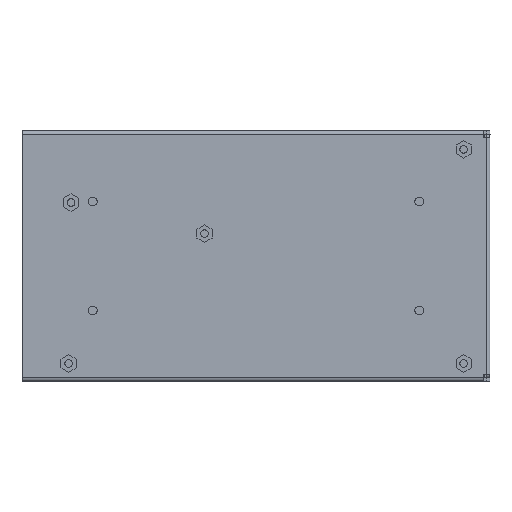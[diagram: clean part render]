
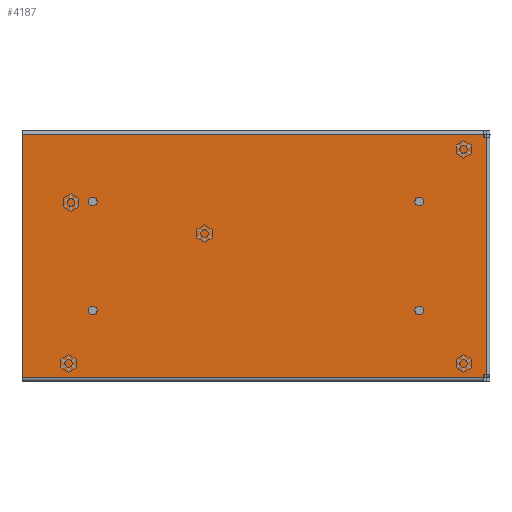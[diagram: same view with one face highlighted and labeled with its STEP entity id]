
A CAD part, front view. The second image highlights one B-rep face of the part: STEP entity #4187.
In plain terms, the highlighted planar face has unit normal (0, -1, 0).
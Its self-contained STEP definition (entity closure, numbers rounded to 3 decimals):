
#36=DIRECTION('',(-1.,0.,0.));
#37=VECTOR('',#36,1.5);
#38=CARTESIAN_POINT('',(-1.5,0.,-54.5));
#39=LINE('',#38,#37);
#40=DIRECTION('',(0.,0.,1.));
#41=VECTOR('',#40,112.);
#42=CARTESIAN_POINT('',(-215.,0.,-56.));
#43=LINE('',#42,#41);
#44=DIRECTION('',(0.,0.,-1.));
#45=VECTOR('',#44,1.5);
#46=CARTESIAN_POINT('',(-3.,0.,56.));
#47=LINE('',#46,#45);
#48=CARTESIAN_POINT('',(-182.5,0.,-25.));
#49=DIRECTION('',(0.,-1.,0.));
#50=DIRECTION('',(-1.,0.,0.));
#51=AXIS2_PLACEMENT_3D('',#48,#49,#50);
#53=CARTESIAN_POINT('',(-182.5,0.,-25.));
#54=DIRECTION('',(0.,-1.,0.));
#55=DIRECTION('',(1.,0.,0.));
#56=AXIS2_PLACEMENT_3D('',#53,#54,#55);
#58=CARTESIAN_POINT('',(-32.5,0.,-25.));
#59=DIRECTION('',(0.,-1.,0.));
#60=DIRECTION('',(-1.,0.,0.));
#61=AXIS2_PLACEMENT_3D('',#58,#59,#60);
#63=CARTESIAN_POINT('',(-32.5,0.,-25.));
#64=DIRECTION('',(0.,-1.,0.));
#65=DIRECTION('',(1.,0.,0.));
#66=AXIS2_PLACEMENT_3D('',#63,#64,#65);
#68=CARTESIAN_POINT('',(-182.5,0.,25.));
#69=DIRECTION('',(0.,-1.,0.));
#70=DIRECTION('',(-1.,0.,0.));
#71=AXIS2_PLACEMENT_3D('',#68,#69,#70);
#73=CARTESIAN_POINT('',(-182.5,0.,25.));
#74=DIRECTION('',(0.,-1.,0.));
#75=DIRECTION('',(1.,0.,0.));
#76=AXIS2_PLACEMENT_3D('',#73,#74,#75);
#78=CARTESIAN_POINT('',(-32.5,0.,25.));
#79=DIRECTION('',(0.,-1.,0.));
#80=DIRECTION('',(-1.,0.,0.));
#81=AXIS2_PLACEMENT_3D('',#78,#79,#80);
#83=CARTESIAN_POINT('',(-32.5,0.,25.));
#84=DIRECTION('',(0.,-1.,0.));
#85=DIRECTION('',(1.,0.,0.));
#86=AXIS2_PLACEMENT_3D('',#83,#84,#85);
#88=DIRECTION('',(-1.,0.,0.));
#89=VECTOR('',#88,1.5);
#90=CARTESIAN_POINT('',(-1.5,0.,54.5));
#91=LINE('',#90,#89);
#113=DIRECTION('',(-1.,0.,0.));
#114=VECTOR('',#113,212.);
#115=CARTESIAN_POINT('',(-3.,0.,56.));
#116=LINE('',#115,#114);
#529=DIRECTION('',(1.,0.,0.));
#530=VECTOR('',#529,212.);
#531=CARTESIAN_POINT('',(-215.,0.,-56.));
#532=LINE('',#531,#530);
#1520=DIRECTION('',(0.,0.,1.));
#1521=VECTOR('',#1520,1.5);
#1522=CARTESIAN_POINT('',(-3.,0.,-56.));
#1523=LINE('',#1522,#1521);
#1549=DIRECTION('',(0.,0.,1.));
#1550=VECTOR('',#1549,109.);
#1551=CARTESIAN_POINT('',(-1.5,0.,-54.5));
#1552=LINE('',#1551,#1550);
#3288=CARTESIAN_POINT('',(-1.5,0.,54.5));
#3289=CARTESIAN_POINT('',(-3.,0.,54.5));
#3290=VERTEX_POINT('',#3288);
#3291=VERTEX_POINT('',#3289);
#3292=CARTESIAN_POINT('',(-1.5,0.,-54.5));
#3293=VERTEX_POINT('',#3292);
#3294=CARTESIAN_POINT('',(-3.,0.,-54.5));
#3295=VERTEX_POINT('',#3294);
#3296=CARTESIAN_POINT('',(-3.,0.,-56.));
#3297=VERTEX_POINT('',#3296);
#3298=CARTESIAN_POINT('',(-215.,0.,-56.));
#3299=VERTEX_POINT('',#3298);
#3300=CARTESIAN_POINT('',(-215.,0.,56.));
#3301=VERTEX_POINT('',#3300);
#3302=CARTESIAN_POINT('',(-3.,0.,56.));
#3303=VERTEX_POINT('',#3302);
#3304=CARTESIAN_POINT('',(-184.5,0.,-25.));
#3305=CARTESIAN_POINT('',(-180.5,0.,-25.));
#3306=VERTEX_POINT('',#3304);
#3307=VERTEX_POINT('',#3305);
#3308=CARTESIAN_POINT('',(-34.5,0.,-25.));
#3309=CARTESIAN_POINT('',(-30.5,0.,-25.));
#3310=VERTEX_POINT('',#3308);
#3311=VERTEX_POINT('',#3309);
#3312=CARTESIAN_POINT('',(-184.5,0.,25.));
#3313=CARTESIAN_POINT('',(-180.5,0.,25.));
#3314=VERTEX_POINT('',#3312);
#3315=VERTEX_POINT('',#3313);
#3316=CARTESIAN_POINT('',(-34.5,0.,25.));
#3317=CARTESIAN_POINT('',(-30.5,0.,25.));
#3318=VERTEX_POINT('',#3316);
#3319=VERTEX_POINT('',#3317);
#4140=CARTESIAN_POINT('',(0.,0.,0.));
#4141=DIRECTION('',(0.,1.,0.));
#4142=DIRECTION('',(1.,0.,0.));
#4143=AXIS2_PLACEMENT_3D('',#4140,#4141,#4142);
#4144=PLANE('',#4143);
#4146=ORIENTED_EDGE('',*,*,#4145,.F.);
#4148=ORIENTED_EDGE('',*,*,#4147,.F.);
#4150=ORIENTED_EDGE('',*,*,#4149,.T.);
#4152=ORIENTED_EDGE('',*,*,#4151,.F.);
#4154=ORIENTED_EDGE('',*,*,#4153,.F.);
#4156=ORIENTED_EDGE('',*,*,#4155,.T.);
#4158=ORIENTED_EDGE('',*,*,#4157,.F.);
#4160=ORIENTED_EDGE('',*,*,#4159,.T.);
#4161=EDGE_LOOP('',(#4146,#4148,#4150,#4152,#4154,#4156,#4158,#4160));
#4162=FACE_OUTER_BOUND('',#4161,.F.);
#4164=ORIENTED_EDGE('',*,*,#4163,.T.);
#4166=ORIENTED_EDGE('',*,*,#4165,.T.);
#4167=EDGE_LOOP('',(#4164,#4166));
#4168=FACE_BOUND('',#4167,.F.);
#4170=ORIENTED_EDGE('',*,*,#4169,.T.);
#4172=ORIENTED_EDGE('',*,*,#4171,.T.);
#4173=EDGE_LOOP('',(#4170,#4172));
#4174=FACE_BOUND('',#4173,.F.);
#4176=ORIENTED_EDGE('',*,*,#4175,.T.);
#4178=ORIENTED_EDGE('',*,*,#4177,.T.);
#4179=EDGE_LOOP('',(#4176,#4178));
#4180=FACE_BOUND('',#4179,.F.);
#4182=ORIENTED_EDGE('',*,*,#4181,.T.);
#4184=ORIENTED_EDGE('',*,*,#4183,.T.);
#4185=EDGE_LOOP('',(#4182,#4184));
#4186=FACE_BOUND('',#4185,.F.);
#52=CIRCLE('',#51,2.);
#57=CIRCLE('',#56,2.);
#62=CIRCLE('',#61,2.);
#67=CIRCLE('',#66,2.);
#72=CIRCLE('',#71,2.);
#77=CIRCLE('',#76,2.);
#82=CIRCLE('',#81,2.);
#87=CIRCLE('',#86,2.);
#4145=EDGE_CURVE('',#3290,#3291,#91,.T.);
#4147=EDGE_CURVE('',#3293,#3290,#1552,.T.);
#4149=EDGE_CURVE('',#3293,#3295,#39,.T.);
#4151=EDGE_CURVE('',#3297,#3295,#1523,.T.);
#4153=EDGE_CURVE('',#3299,#3297,#532,.T.);
#4155=EDGE_CURVE('',#3299,#3301,#43,.T.);
#4157=EDGE_CURVE('',#3303,#3301,#116,.T.);
#4159=EDGE_CURVE('',#3303,#3291,#47,.T.);
#4163=EDGE_CURVE('',#3306,#3307,#52,.T.);
#4165=EDGE_CURVE('',#3307,#3306,#57,.T.);
#4169=EDGE_CURVE('',#3310,#3311,#62,.T.);
#4171=EDGE_CURVE('',#3311,#3310,#67,.T.);
#4175=EDGE_CURVE('',#3314,#3315,#72,.T.);
#4177=EDGE_CURVE('',#3315,#3314,#77,.T.);
#4181=EDGE_CURVE('',#3318,#3319,#82,.T.);
#4183=EDGE_CURVE('',#3319,#3318,#87,.T.);
#4187=ADVANCED_FACE('',(#4162,#4168,#4174,#4180,#4186),#4144,.F.);
